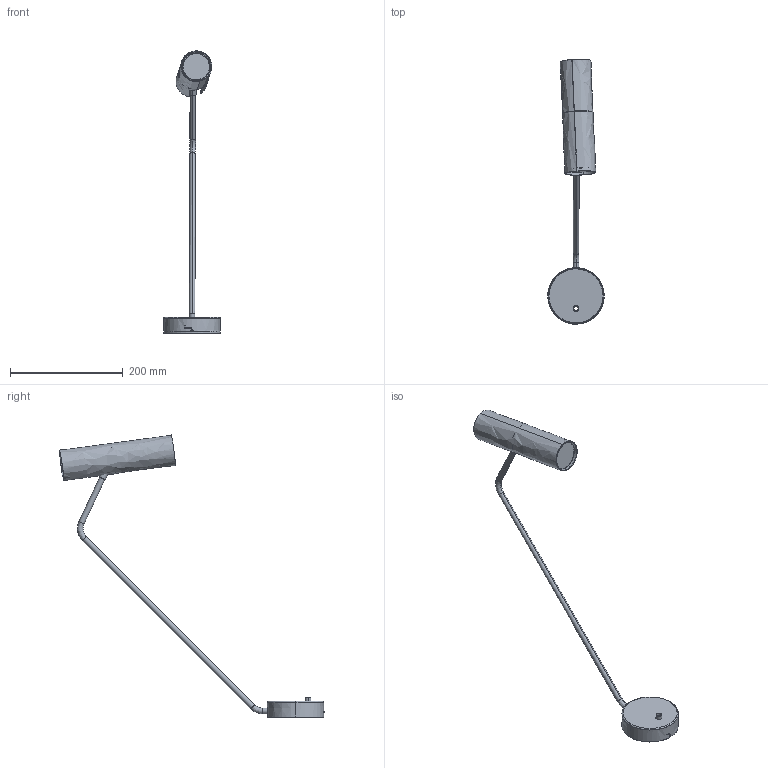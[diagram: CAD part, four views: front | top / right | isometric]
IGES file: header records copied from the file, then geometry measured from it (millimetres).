
Start section: SolidWorks IGES file using analytic representation for surfaces
Global section: file name: C:\Users\Asia\Desktop\Super Eye_6501,6487,6494.IGS; native system: SolidWorks 2016; preprocessor: SolidWorks 2016; author: Asia; date: 160803.114939; units: millimetre
Bounding box: 100 x 470.39 x 500.67 mm (x, y, z)
Surface area: 165566.2 mm2 (no closed solid volume)
Topology: 0 solids, 0 shells, 198 faces, 3645 edges, 3645 vertices
Faces by surface type: bspline 110, revolution 88
